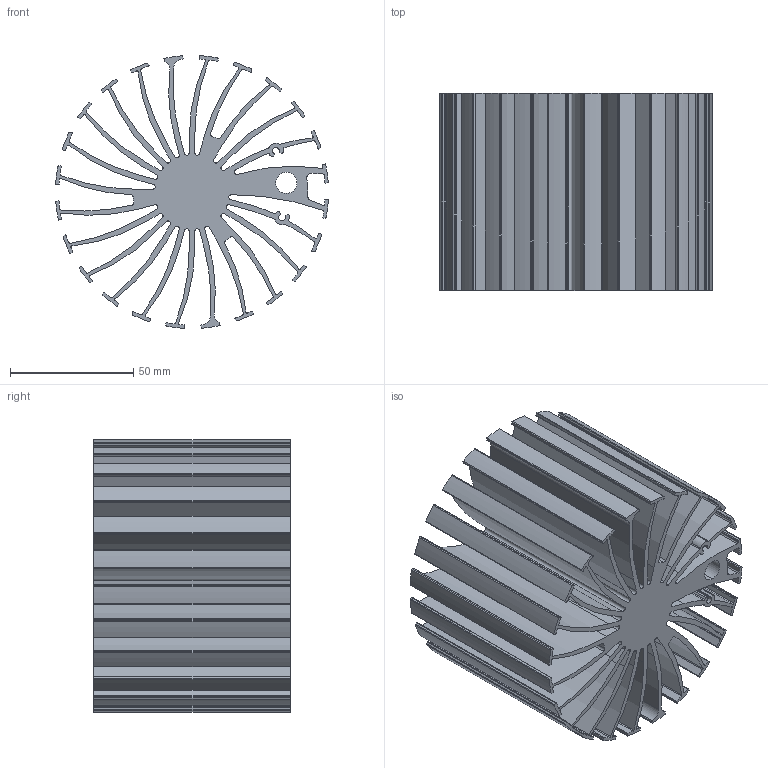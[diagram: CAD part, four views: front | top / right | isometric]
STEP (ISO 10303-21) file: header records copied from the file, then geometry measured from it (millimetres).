
FILE_DESCRIPTION((''),'2;1');
FILE_NAME('111X80-20140812_1_','2014-09-16T',('John'),(''),'PRO/ENGINEER BY PARAMETRIC TECHNOLOGY CORPORATION, 2012060','PRO/ENGINEER BY PARAMETRIC TECHNOLOGY CORPORATION, 2012060','');
FILE_SCHEMA(('CONFIG_CONTROL_DESIGN'));
Length unit declared in the file: millimetre
Products named in the file (1): 111X80-20140812_1_
Bounding box: 110.77 x 80 x 110.77 mm (x, y, z)
Volume: 247432.4 mm3; surface area: 184709.8 mm2
Topology: 1 solids, 1 shells, 425 faces, 1260 edges, 840 vertices
Faces by surface type: cylinder 330, plane 95
Entity records: 14681 total; most frequent: DIRECTION 2710, CARTESIAN_POINT 2680, ORIENTED_EDGE 2520, EDGE_CURVE 1260, AXIS2_PLACEMENT_3D 1055, VERTEX_POINT 840, CIRCLE 630, VECTOR 600
